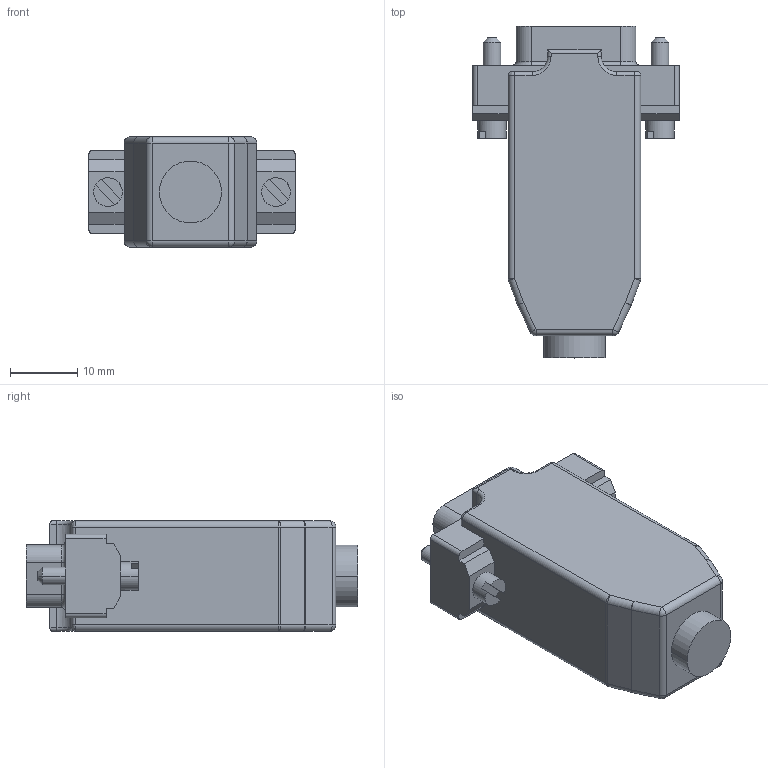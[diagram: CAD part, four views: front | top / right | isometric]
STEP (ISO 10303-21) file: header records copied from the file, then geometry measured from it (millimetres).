
FILE_DESCRIPTION((''),'2;1');
FILE_NAME('CU_DSUB-BACKSHELL-9POS','2007-08-07T',('jpearson'),(''),'PRO/ENGINEER BY PARAMETRIC TECHNOLOGY CORPORATION, 2006080','PRO/ENGINEER BY PARAMETRIC TECHNOLOGY CORPORATION, 2006080','');
FILE_SCHEMA(('CONFIG_CONTROL_DESIGN'));
Length unit declared in the file: inch
Products named in the file (1): CU_DSUB-BACKSHELL-9POS
Bounding box: 30.81 x 49.53 x 16.51 mm (x, y, z)
Volume: 14341.4 mm3; surface area: 4726.7 mm2
Topology: 1 solids, 1 shells, 185 faces, 436 edges, 268 vertices
Faces by surface type: cylinder 84, plane 73, sphere 12, torus 8, bspline 4, cone 4
Entity records: 5418 total; most frequent: CARTESIAN_POINT 1009, DIRECTION 974, ORIENTED_EDGE 872, EDGE_CURVE 436, AXIS2_PLACEMENT_3D 365, VERTEX_POINT 268, VECTOR 244, LINE 244
